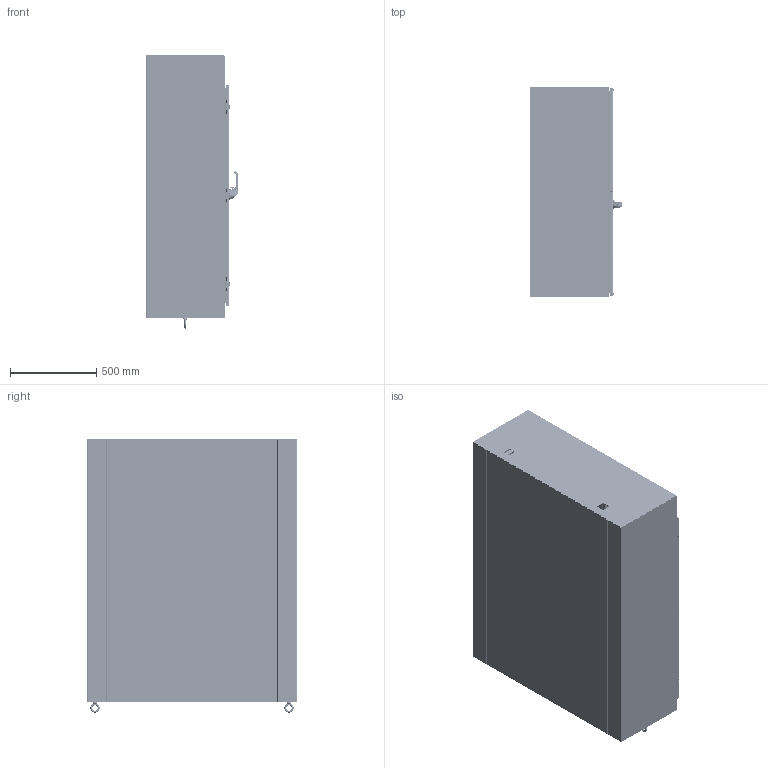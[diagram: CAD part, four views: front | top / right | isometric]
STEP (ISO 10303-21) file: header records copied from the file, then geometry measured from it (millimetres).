
FILE_DESCRIPTION((''),'2;1');
FILE_NAME('MODEL-245_ASM','2024-05-21T15:22:30',('johnh'),('SAGINAW CONTROL & ENGINEERING'),'CREO PARAMETRIC BY PTC INC, 2021284','CREO PARAMETRIC BY PTC INC, 2021284','');
FILE_SCHEMA(('AUTOMOTIVE_DESIGN { 1 0 10303 214 1 1 1 1 }'));
Length unit declared in the file: inch
Products named in the file (64): MODEL-245-L-SD; MODEL-245-TP; MODEL-245-R-SD; MODEL-245-BTM; MODEL-245-BCK; MODEL-245-MSTR; 100837; 111267; 100882; 100955_SCREW_MTG; 100955_PADLOCK_CATCH; 100955_SCREW_LARGE; 100955_INSERT_SHAFT; 100955_INSERT_PKH; 100955_GASKET; 100955_O-RING; 100955_BASE; 100955_SPRING; 100955_HANDLE; 100955_CAM_SHAFT; 100955_HANDLE_ASM; 100955_CAM_ADAPTER; 100955_EARTH_NUT; 100955_FLANGE_NUT; 100955_CAM_NUT; 100955_KEY_INSERT; 100955_SPRING_CAM; 100955_TORSION_SPRING; 100955_SCREW_INSERT; 100955_ASM; 102236; 100030; 102236_ASM; MODEL-245-ROD-UPR; 128146; 128145; 128144; 102482; MODEL-245-ROD-UPR_ASM; 128143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
Assembly tree (135 placements, depth 5):
  MODEL-245_ASM
    MODEL-245-L-SD
    MODEL-245-TP
    MODEL-245-R-SD
    MODEL-245-BTM
    MODEL-245-BCK
    MODEL-245-MASTER-DR-ASSY_ASM
      MODEL-245-MSTR
      100837  x5
      111267
      100882  x10
      100955_ASM
        100955_SCREW_MTG
        100955_PADLOCK_CATCH
        100955_SCREW_LARGE  x2
        100955_INSERT_SHAFT
        100955_INSERT_PKH
        100955_GASKET
        100955_O-RING
        100955_BASE
        100955_SPRING
        100955_HANDLE_ASM
          100955_HANDLE
          100955_CAM_SHAFT
        100955_CAM_ADAPTER
        100955_EARTH_NUT
        100955_FLANGE_NUT
        100955_CAM_NUT
        100955_KEY_INSERT
        100955_SPRING_CAM
        100955_TORSION_SPRING
        100955_SCREW_INSERT
      102236_ASM
        102236
        100030  x2
      MODEL-245-ROD-UPR_ASM
        MODEL-245-ROD-UPR
        128146
        128145
        128144
        102482  x2
      128143  x2
      112504  x2
      MODEL-245-ROD-LWR_ASM
        MODEL-245-ROD-LWR
        128146
        128145
        128144
        102482  x2
      MODEL-245-PR-GSKT-M
      128257_ASM  x3
        128257
      126393  x3
      102483  x3
      101369_ASM  x3
        101369
        101369-STUD
      101221  x3
    MODEL-245-SLAVE-DR-ASSY_ASM
      MODEL-245-SLV
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Bounding box: 535.45 x 1219.2 x 1585.16 mm (x, y, z)
Volume: 20351109.5 mm3; surface area: 15176670.8 mm2
Topology: 147 solids, 147 shells, 14667 faces, 37946 edges, 23699 vertices
Faces by surface type: plane 5198, cylinder 4021, bspline 3544, torus 891, cone 709, sphere 274, extrusion 30
Entity records: 395131 total; most frequent: CARTESIAN_POINT 153639, ORIENTED_EDGE 36064, DIRECTION 33149, PRESENTATION_STYLE_ASSIGNMENT 19619, STYLED_ITEM 19614, CURVE_STYLE 18032, EDGE_CURVE 18032, AXIS2_PLACEMENT_3D 12447
